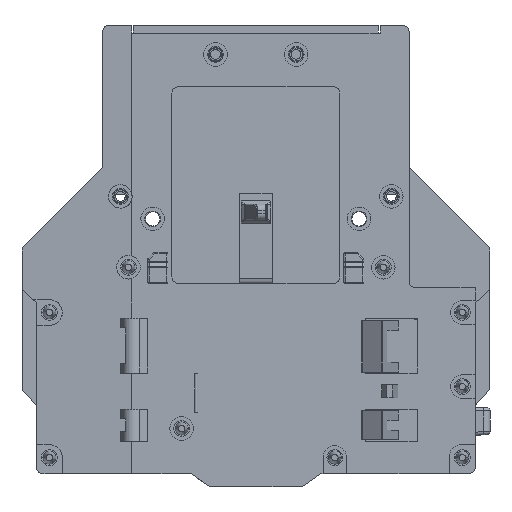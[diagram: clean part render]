
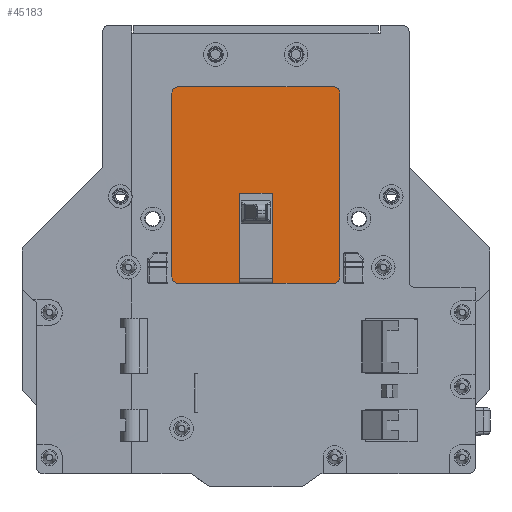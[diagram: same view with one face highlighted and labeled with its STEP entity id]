
A CAD part, left-side view. The second image highlights one B-rep face of the part: STEP entity #45183.
In plain terms, the highlighted planar face has unit normal (-1, 0, 0) as drawn and (0, 1, 0) by its records, which use the part's own axes.
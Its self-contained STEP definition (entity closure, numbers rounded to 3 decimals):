
#1696 = CARTESIAN_POINT ( 'NONE',  ( 12., 1.3, -30.5 ) ) ;
#2118 = ORIENTED_EDGE ( 'NONE', *, *, #21237, .T. ) ;
#2290 = AXIS2_PLACEMENT_3D ( 'NONE', #78598, #78204, #47507 ) ;
#2474 = CARTESIAN_POINT ( 'NONE',  ( 0., 1.3, 0. ) ) ;
#4995 = CARTESIAN_POINT ( 'NONE',  ( -2.55, 1.3, -43.5 ) ) ;
#6202 = CARTESIAN_POINT ( 'NONE',  ( 12., 1.3, -60. ) ) ;
#8786 = DIRECTION ( 'NONE',  ( 0., 1., 0. ) ) ;
#8797 = EDGE_CURVE ( 'NONE', #56654, #22827, #10450, .T. ) ;
#8806 = ORIENTED_EDGE ( 'NONE', *, *, #11516, .T. ) ;
#9596 = VERTEX_POINT ( 'NONE', #50590 ) ;
#9663 = ORIENTED_EDGE ( 'NONE', *, *, #19356, .T. ) ;
#10450 = LINE ( 'NONE', #54957, #42526 ) ;
#11262 = VERTEX_POINT ( 'NONE', #36654 ) ;
#11516 = EDGE_CURVE ( 'NONE', #57598, #9596, #32524, .T. ) ;
#12496 = ORIENTED_EDGE ( 'NONE', *, *, #56719, .F. ) ;
#12721 = DIRECTION ( 'NONE',  ( -1., 0., 0. ) ) ;
#12964 = EDGE_CURVE ( 'NONE', #54948, #62087, #15440, .T. ) ;
#13541 = CARTESIAN_POINT ( 'NONE',  ( -12., 1.3, -30.5 ) ) ;
#15440 = LINE ( 'NONE', #77171, #70419 ) ;
#16409 = VERTEX_POINT ( 'NONE', #63412 ) ;
#17437 = CARTESIAN_POINT ( 'NONE',  ( 13., 1.3, -30.5 ) ) ;
#18408 = DIRECTION ( 'NONE',  ( 1., 0., 0. ) ) ;
#19356 = EDGE_CURVE ( 'NONE', #60428, #16409, #20161, .T. ) ;
#19473 = DIRECTION ( 'NONE',  ( 0., 0., 1. ) ) ;
#19644 = PLANE ( 'NONE',  #47890 ) ;
#20161 = LINE ( 'NONE', #32814, #36103 ) ;
#20213 = VECTOR ( 'NONE', #29894, 1000. ) ;
#21237 = EDGE_CURVE ( 'NONE', #16409, #75529, #68774, .T. ) ;
#21359 = EDGE_CURVE ( 'NONE', #54948, #60428, #78125, .T. ) ;
#21862 = CARTESIAN_POINT ( 'NONE',  ( 13., 1.3, -30.5 ) ) ;
#22827 = VERTEX_POINT ( 'NONE', #25977 ) ;
#23901 = DIRECTION ( 'NONE',  ( -1., 0., 0. ) ) ;
#25628 = ORIENTED_EDGE ( 'NONE', *, *, #67165, .T. ) ;
#25771 = CIRCLE ( 'NONE', #2290, 1. ) ;
#25977 = CARTESIAN_POINT ( 'NONE',  ( -12., 1.3, -60. ) ) ;
#27157 = DIRECTION ( 'NONE',  ( 0., 0., -1. ) ) ;
#29561 = AXIS2_PLACEMENT_3D ( 'NONE', #1696, #58079, #39695 ) ;
#29894 = DIRECTION ( 'NONE',  ( 0., 0., 1. ) ) ;
#30844 = ORIENTED_EDGE ( 'NONE', *, *, #12964, .F. ) ;
#32023 = CIRCLE ( 'NONE', #38516, 1. ) ;
#32524 = LINE ( 'NONE', #76292, #47852 ) ;
#32814 = CARTESIAN_POINT ( 'NONE',  ( 2.55, 1.3, -29.5 ) ) ;
#33121 = DIRECTION ( 'NONE',  ( 1., 0., 0. ) ) ;
#35148 = CARTESIAN_POINT ( 'NONE',  ( 2.55, 1.3, -43.5 ) ) ;
#35694 = ORIENTED_EDGE ( 'NONE', *, *, #46176, .T. ) ;
#35793 = CARTESIAN_POINT ( 'NONE',  ( -2.55, 1.3, -29.5 ) ) ;
#35845 = ORIENTED_EDGE ( 'NONE', *, *, #77870, .T. ) ;
#36103 = VECTOR ( 'NONE', #39356, 1000. ) ;
#36654 = CARTESIAN_POINT ( 'NONE',  ( -12., 1.3, -29.5 ) ) ;
#36748 = AXIS2_PLACEMENT_3D ( 'NONE', #75800, #8786, #56577 ) ;
#38415 = LINE ( 'NONE', #74412, #56321 ) ;
#38516 = AXIS2_PLACEMENT_3D ( 'NONE', #13541, #61774, #12721 ) ;
#39356 = DIRECTION ( 'NONE',  ( 1., 0., 0. ) ) ;
#39695 = DIRECTION ( 'NONE',  ( 0., 0., 1. ) ) ;
#39958 = DIRECTION ( 'NONE',  ( -1., 0., 0. ) ) ;
#41953 = ORIENTED_EDGE ( 'NONE', *, *, #21359, .T. ) ;
#42526 = VECTOR ( 'NONE', #23901, 1000. ) ;
#45183 = ADVANCED_FACE ( 'NONE', ( #69939 ), #19644, .T. ) ;
#46176 = EDGE_CURVE ( 'NONE', #22827, #57598, #25771, .T. ) ;
#46382 = LINE ( 'NONE', #21862, #54104 ) ;
#47048 = CARTESIAN_POINT ( 'NONE',  ( 13., 1.3, -59. ) ) ;
#47444 = CARTESIAN_POINT ( 'NONE',  ( 2.55, 1.3, -43.5 ) ) ;
#47507 = DIRECTION ( 'NONE',  ( 0., 0., -1. ) ) ;
#47852 = VECTOR ( 'NONE', #19473, 1000. ) ;
#47890 = AXIS2_PLACEMENT_3D ( 'NONE', #2474, #51504, #33121 ) ;
#50590 = CARTESIAN_POINT ( 'NONE',  ( -13., 1.3, -30.5 ) ) ;
#51504 = DIRECTION ( 'NONE',  ( 0., 1., 0. ) ) ;
#52337 = CARTESIAN_POINT ( 'NONE',  ( -13., 1.3, -59. ) ) ;
#53349 = ORIENTED_EDGE ( 'NONE', *, *, #57383, .T. ) ;
#54104 = VECTOR ( 'NONE', #27157, 1000. ) ;
#54948 = VERTEX_POINT ( 'NONE', #47444 ) ;
#54957 = CARTESIAN_POINT ( 'NONE',  ( 12., 1.3, -60. ) ) ;
#56321 = VECTOR ( 'NONE', #18408, 1000. ) ;
#56577 = DIRECTION ( 'NONE',  ( 1., 0., 0. ) ) ;
#56654 = VERTEX_POINT ( 'NONE', #6202 ) ;
#56719 = EDGE_CURVE ( 'NONE', #62087, #74183, #67112, .T. ) ;
#57383 = EDGE_CURVE ( 'NONE', #9596, #11262, #32023, .T. ) ;
#57598 = VERTEX_POINT ( 'NONE', #52337 ) ;
#58079 = DIRECTION ( 'NONE',  ( 0., 1., 0. ) ) ;
#58310 = VECTOR ( 'NONE', #59688, 1000. ) ;
#58671 = ORIENTED_EDGE ( 'NONE', *, *, #76218, .T. ) ;
#59688 = DIRECTION ( 'NONE',  ( 0., 0., 1. ) ) ;
#59929 = EDGE_LOOP ( 'NONE', ( #76939, #35694, #8806, #53349, #58671, #12496, #30844, #41953, #9663, #2118, #25628, #35845 ) ) ;
#60428 = VERTEX_POINT ( 'NONE', #67507 ) ;
#61774 = DIRECTION ( 'NONE',  ( 0., 1., 0. ) ) ;
#62087 = VERTEX_POINT ( 'NONE', #75244 ) ;
#63412 = CARTESIAN_POINT ( 'NONE',  ( 12., 1.3, -29.5 ) ) ;
#67112 = LINE ( 'NONE', #4995, #20213 ) ;
#67165 = EDGE_CURVE ( 'NONE', #75529, #75920, #46382, .T. ) ;
#67507 = CARTESIAN_POINT ( 'NONE',  ( 2.55, 1.3, -29.5 ) ) ;
#68774 = CIRCLE ( 'NONE', #29561, 1. ) ;
#69939 = FACE_OUTER_BOUND ( 'NONE', #59929, .T. ) ;
#70419 = VECTOR ( 'NONE', #39958, 1000. ) ;
#74183 = VERTEX_POINT ( 'NONE', #35793 ) ;
#74412 = CARTESIAN_POINT ( 'NONE',  ( -12., 1.3, -29.5 ) ) ;
#74566 = CIRCLE ( 'NONE', #36748, 1. ) ;
#75244 = CARTESIAN_POINT ( 'NONE',  ( -2.55, 1.3, -43.5 ) ) ;
#75529 = VERTEX_POINT ( 'NONE', #17437 ) ;
#75800 = CARTESIAN_POINT ( 'NONE',  ( 12., 1.3, -59. ) ) ;
#75920 = VERTEX_POINT ( 'NONE', #47048 ) ;
#76218 = EDGE_CURVE ( 'NONE', #11262, #74183, #38415, .T. ) ;
#76292 = CARTESIAN_POINT ( 'NONE',  ( -13., 1.3, -59. ) ) ;
#76939 = ORIENTED_EDGE ( 'NONE', *, *, #8797, .T. ) ;
#77171 = CARTESIAN_POINT ( 'NONE',  ( 2.55, 1.3, -43.5 ) ) ;
#77870 = EDGE_CURVE ( 'NONE', #75920, #56654, #74566, .T. ) ;
#78125 = LINE ( 'NONE', #35148, #58310 ) ;
#78204 = DIRECTION ( 'NONE',  ( 0., 1., 0. ) ) ;
#78598 = CARTESIAN_POINT ( 'NONE',  ( -12., 1.3, -59. ) ) ;
